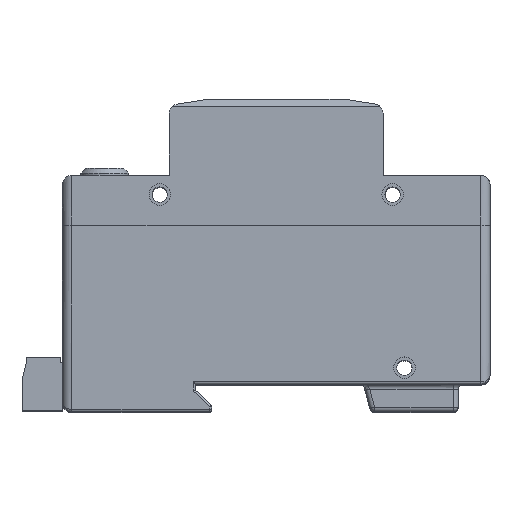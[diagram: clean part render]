
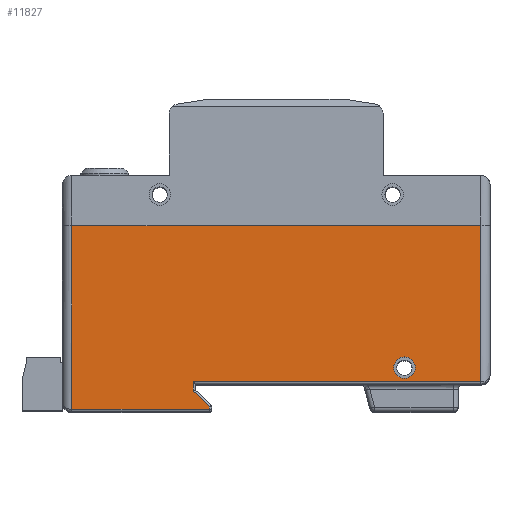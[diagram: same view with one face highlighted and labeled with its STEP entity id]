
A CAD part, top view. The second image highlights one B-rep face of the part: STEP entity #11827.
In plain terms, the highlighted planar face has unit normal (0, 0, 1).
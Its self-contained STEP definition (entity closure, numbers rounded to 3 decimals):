
#401=CIRCLE('',#12834,2.25);
#402=CIRCLE('',#12835,2.25);
#765=FACE_BOUND('',#1820,.T.);
#1108=FACE_OUTER_BOUND('',#1819,.T.);
#1819=EDGE_LOOP('',(#9143,#9144,#9145,#9146,#9147,#9148,#9149,#9150));
#1820=EDGE_LOOP('',(#9151,#9152));
#2836=LINE('',#18526,#4133);
#2906=LINE('',#18689,#4203);
#2912=LINE('',#18704,#4209);
#2913=LINE('',#18706,#4210);
#2914=LINE('',#18708,#4211);
#2915=LINE('',#18710,#4212);
#2916=LINE('',#18712,#4213);
#2917=LINE('',#18713,#4214);
#4133=VECTOR('',#14837,10.);
#4203=VECTOR('',#14967,10.);
#4209=VECTOR('',#14981,10.);
#4210=VECTOR('',#14982,10.);
#4211=VECTOR('',#14983,10.);
#4212=VECTOR('',#14984,10.);
#4213=VECTOR('',#14985,10.);
#4214=VECTOR('',#14986,10.);
#5322=VERTEX_POINT('',#18523);
#5323=VERTEX_POINT('',#18525);
#5386=VERTEX_POINT('',#18687);
#5391=VERTEX_POINT('',#18703);
#5392=VERTEX_POINT('',#18705);
#5393=VERTEX_POINT('',#18707);
#5394=VERTEX_POINT('',#18709);
#5395=VERTEX_POINT('',#18711);
#5396=VERTEX_POINT('',#18714);
#5397=VERTEX_POINT('',#18715);
#6662=EDGE_CURVE('',#5323,#5322,#2836,.T.);
#6745=EDGE_CURVE('',#5386,#5322,#2906,.T.);
#6752=EDGE_CURVE('',#5391,#5386,#2912,.T.);
#6753=EDGE_CURVE('',#5392,#5391,#2913,.T.);
#6754=EDGE_CURVE('',#5393,#5392,#2914,.T.);
#6755=EDGE_CURVE('',#5394,#5393,#2915,.T.);
#6756=EDGE_CURVE('',#5395,#5394,#2916,.T.);
#6757=EDGE_CURVE('',#5323,#5395,#2917,.T.);
#6758=EDGE_CURVE('',#5396,#5397,#401,.T.);
#6759=EDGE_CURVE('',#5397,#5396,#402,.T.);
#9143=ORIENTED_EDGE('',*,*,#6662,.T.);
#9144=ORIENTED_EDGE('',*,*,#6745,.F.);
#9145=ORIENTED_EDGE('',*,*,#6752,.F.);
#9146=ORIENTED_EDGE('',*,*,#6753,.F.);
#9147=ORIENTED_EDGE('',*,*,#6754,.F.);
#9148=ORIENTED_EDGE('',*,*,#6755,.F.);
#9149=ORIENTED_EDGE('',*,*,#6756,.F.);
#9150=ORIENTED_EDGE('',*,*,#6757,.F.);
#9151=ORIENTED_EDGE('',*,*,#6758,.T.);
#9152=ORIENTED_EDGE('',*,*,#6759,.T.);
#11262=PLANE('',#12833);
#11827=ADVANCED_FACE('',(#1108,#765),#11262,.T.);
#12833=AXIS2_PLACEMENT_3D('',#18702,#14979,#14980);
#12834=AXIS2_PLACEMENT_3D('',#18716,#14987,#14988);
#12835=AXIS2_PLACEMENT_3D('',#18717,#14989,#14990);
#14837=DIRECTION('',(-1.,0.,0.));
#14967=DIRECTION('',(0.,1.,0.));
#14979=DIRECTION('center_axis',(0.,0.,1.));
#14980=DIRECTION('ref_axis',(1.,0.,0.));
#14981=DIRECTION('',(-1.,0.,0.));
#14982=DIRECTION('',(0.,-1.,0.));
#14983=DIRECTION('',(0.718,-0.696,0.));
#14984=DIRECTION('',(0.,-1.,0.));
#14985=DIRECTION('',(-1.,0.,0.));
#14986=DIRECTION('',(0.,-1.,0.));
#14987=DIRECTION('center_axis',(0.,0.,-1.));
#14988=DIRECTION('ref_axis',(1.,0.,0.));
#14989=DIRECTION('center_axis',(0.,0.,-1.));
#14990=DIRECTION('ref_axis',(1.,0.,0.));
#18523=CARTESIAN_POINT('',(-43.,3.4,35.2));
#18525=CARTESIAN_POINT('',(43.,3.4,35.2));
#18526=CARTESIAN_POINT('',(0.046,3.4,35.2));
#18687=CARTESIAN_POINT('',(-43.,-35.3,35.2));
#18689=CARTESIAN_POINT('',(-43.,4.121,35.2));
#18702=CARTESIAN_POINT('Origin',(-0.355,-5.758,35.2));
#18703=CARTESIAN_POINT('',(-14.1,-35.3,35.2));
#18704=CARTESIAN_POINT('',(-22.678,-35.3,35.2));
#18705=CARTESIAN_POINT('',(-14.1,-34.711,35.2));
#18706=CARTESIAN_POINT('',(-14.1,-20.779,35.2));
#18707=CARTESIAN_POINT('',(-17.5,-31.411,35.2));
#18708=CARTESIAN_POINT('',(-17.721,-31.197,35.2));
#18709=CARTESIAN_POINT('',(-17.5,-29.5,35.2));
#18710=CARTESIAN_POINT('',(-17.5,-18.479,35.2));
#18711=CARTESIAN_POINT('',(43.,-29.5,35.2));
#18712=CARTESIAN_POINT('',(18.972,-29.5,35.2));
#18713=CARTESIAN_POINT('',(43.,-17.879,35.2));
#18714=CARTESIAN_POINT('',(29.25,-26.5,35.2));
#18715=CARTESIAN_POINT('',(24.75,-26.5,35.2));
#18716=CARTESIAN_POINT('Origin',(27.,-26.5,35.2));
#18717=CARTESIAN_POINT('Origin',(27.,-26.5,35.2));
